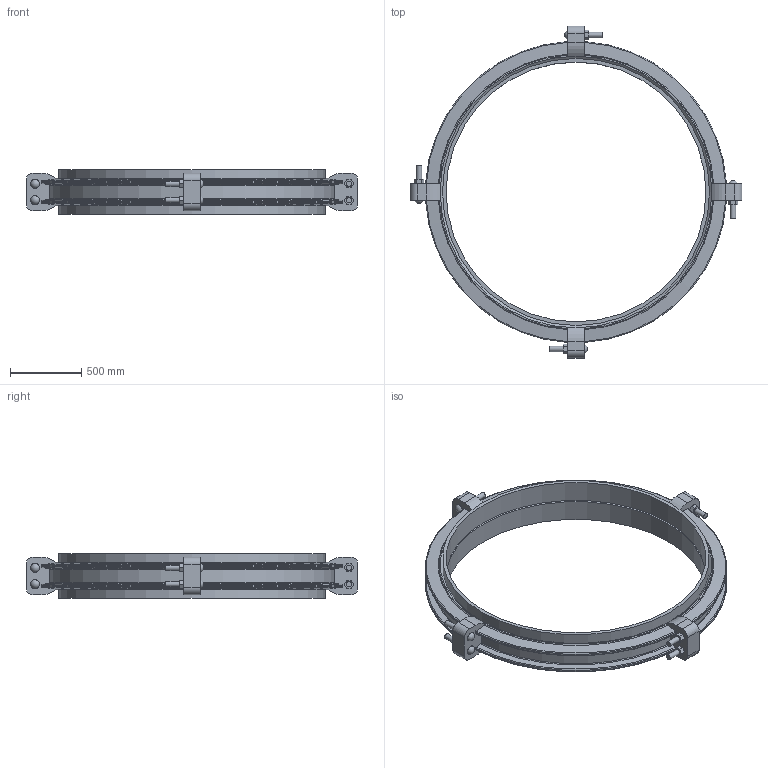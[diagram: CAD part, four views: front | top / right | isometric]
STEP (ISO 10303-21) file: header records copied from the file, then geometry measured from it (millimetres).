
FILE_DESCRIPTION(/* description */ ('VIC COUPLING FLEX STYLE W77 AGS VIC-RING ','CAx-IF Rec.Pracs.---Representation and Presentation of Product Manufacturing Information (PMI)---4.0---2014-10-13'),/* implementation_level */ '2;1');
FILE_NAME(/* name */ 'C:\Users\Vjadhav\AppData\Roaming\Autodesk\ApplicationPlugins\Victaulic.Temp\A52\Victaulic_Vic-Ring_Coupling Flexible_Style W77 (AGR)_74 (1850).stp',/* time_stamp */ '2021-12-20T11:07:39+06:00',/* author */ ('Vjadhav'),/* organization */ ('Victaulic'),/* preprocessor_version */ 'ST-DEVELOPER v17.2',/* originating_system */ 'Autodesk Inventor 2019',/* authorisation */ '');
FILE_SCHEMA (('AP242_MANAGED_MODEL_BASED_3D_ENGINEERING_MIM_LF { 1 0 10303 442 1 1 4 }'));
Length unit declared in the file: inch
Products named in the file (3): W77 VR-74.0; W77-VR-74.0; W77 VR-74.0_1
Assembly tree (3 placements, depth 2):
  W77 VR-74.0
    W77-VR-74.0
    W77 VR-74.0_1  x2
Bounding box: 2336.8 x 2336.8 x 316.74 mm (x, y, z)
Volume: 155123378.3 mm3; surface area: 9293188.6 mm2
Topology: 3 solids, 11 shells, 279 faces, 745 edges, 512 vertices
Faces by surface type: plane 138, cylinder 83, torus 32, cone 18, sphere 8
Full cylindrical faces by diameter (mm): 38.1 x16, 63.5 x8, 1828.8 x2, 1860.55 x1, 1879.6 x4
Entity records: 10061 total; most frequent: CARTESIAN_POINT 2672, ORIENTED_EDGE 1470, DIRECTION 1457, EDGE_CURVE 735, AXIS2_PLACEMENT_3D 537, VERTEX_POINT 504, LINE 383, VECTOR 383
